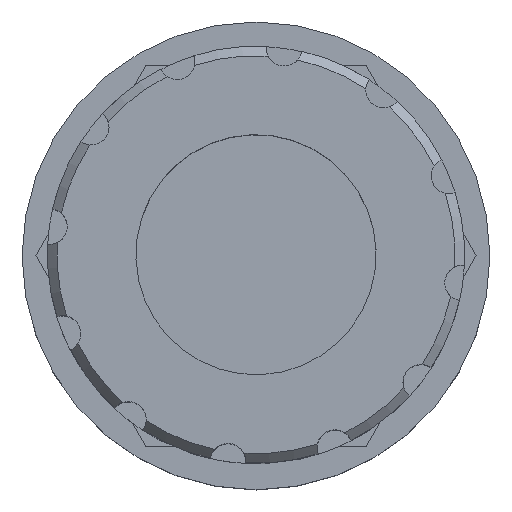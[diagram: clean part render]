
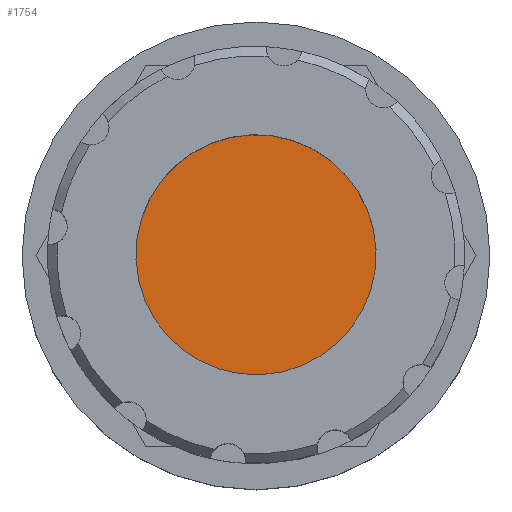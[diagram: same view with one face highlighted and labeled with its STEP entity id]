
A CAD part, top view. The second image highlights one B-rep face of the part: STEP entity #1754.
In plain terms, the highlighted planar face has unit normal (0, 0, 1).
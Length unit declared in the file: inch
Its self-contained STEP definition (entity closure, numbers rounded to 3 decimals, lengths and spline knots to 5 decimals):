
#293 = AXIS2_PLACEMENT_3D ( 'NONE', #1082, #1083, #1079 ) ;
#301 = AXIS2_PLACEMENT_3D ( 'NONE', #2596, #2597, #2604 ) ;
#385 = AXIS2_PLACEMENT_3D ( 'NONE', #2468, #2472, #2473 ) ;
#545 = CIRCLE ( 'NONE', #293, 0.63 ) ;
#561 = CIRCLE ( 'NONE', #301, 0.63 ) ;
#713 = FACE_OUTER_BOUND ( 'NONE', #1341, .T. ) ;
#857 = EDGE_CURVE ( 'NONE', #1241, #1244, #545, .T. ) ;
#870 = EDGE_CURVE ( 'NONE', #1244, #1241, #561, .T. ) ;
#1079 = DIRECTION ( 'NONE',  ( 0.612, 0.791, 0. ) ) ;
#1082 = CARTESIAN_POINT ( 'NONE',  ( -3.28994, 1.32254, 2.78762 ) ) ;
#1083 = DIRECTION ( 'NONE',  ( 0., 0., 1. ) ) ;
#1184 = ORIENTED_EDGE ( 'NONE', *, *, #870, .T. ) ;
#1223 = ORIENTED_EDGE ( 'NONE', *, *, #857, .T. ) ;
#1241 = VERTEX_POINT ( 'NONE', #2130 ) ;
#1244 = VERTEX_POINT ( 'NONE', #2132 ) ;
#1341 = EDGE_LOOP ( 'NONE', ( #1184, #1223 ) ) ;
#1754 = ADVANCED_FACE ( 'NONE', ( #713 ), #2470, .T. ) ;
#2130 = CARTESIAN_POINT ( 'NONE',  ( -3.67573, 0.82447, 2.78762 ) ) ;
#2132 = CARTESIAN_POINT ( 'NONE',  ( -2.90415, 1.8206, 2.78762 ) ) ;
#2468 = CARTESIAN_POINT ( 'NONE',  ( -3.28994, 1.32254, 2.78762 ) ) ;
#2470 = PLANE ( 'NONE',  #385 ) ;
#2472 = DIRECTION ( 'NONE',  ( 0., 0., 1. ) ) ;
#2473 = DIRECTION ( 'NONE',  ( 0., -1., 0. ) ) ;
#2596 = CARTESIAN_POINT ( 'NONE',  ( -3.28994, 1.32254, 2.78762 ) ) ;
#2597 = DIRECTION ( 'NONE',  ( 0., 0., 1. ) ) ;
#2604 = DIRECTION ( 'NONE',  ( 0.612, 0.791, 0. ) ) ;
